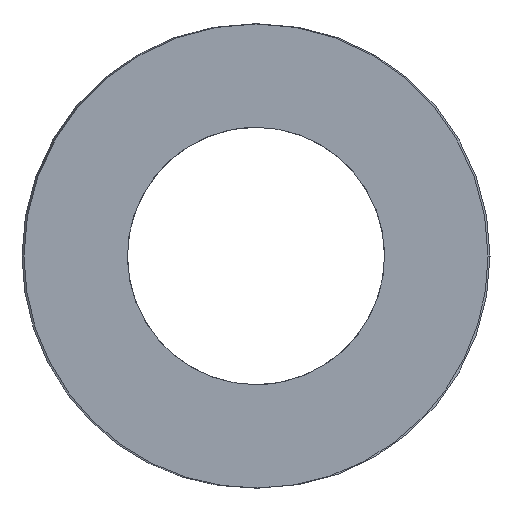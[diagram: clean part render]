
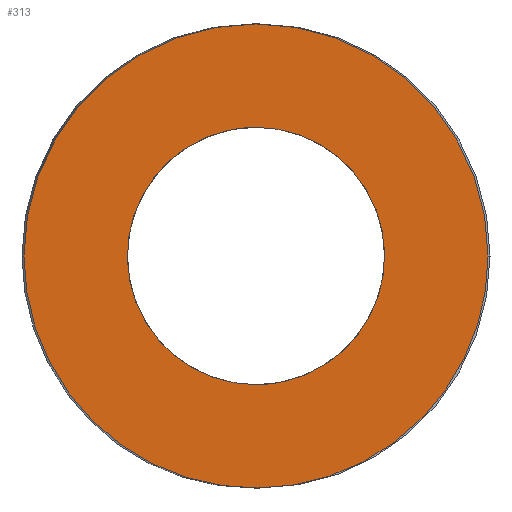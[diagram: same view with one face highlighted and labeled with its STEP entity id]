
A CAD part, left-side view. The second image highlights one B-rep face of the part: STEP entity #313.
In plain terms, the highlighted planar face has unit normal (-1, 0, 0).
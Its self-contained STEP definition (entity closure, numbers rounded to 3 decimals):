
#63=CARTESIAN_POINT('Vertex',(0.,9.2,0.)) ;
#89=CARTESIAN_POINT('Vertex',(0.,-9.2,0.)) ;
#93=CARTESIAN_POINT('Control Point',(0.,9.2,0.)) ;
#94=CARTESIAN_POINT('Control Point',(0.,9.2,-1.445)) ;
#95=CARTESIAN_POINT('Control Point',(0.,8.916,-2.89)) ;
#96=CARTESIAN_POINT('Control Point',(0.,8.348,-4.261)) ;
#97=CARTESIAN_POINT('Control Point',(0.,6.706,-6.706)) ;
#98=CARTESIAN_POINT('Control Point',(0.,4.261,-8.348)) ;
#99=CARTESIAN_POINT('Control Point',(0.,2.89,-8.916)) ;
#100=CARTESIAN_POINT('Control Point',(0.,0.,-9.484)) ;
#101=CARTESIAN_POINT('Control Point',(0.,-2.89,-8.916)) ;
#102=CARTESIAN_POINT('Control Point',(0.,-4.261,-8.348)) ;
#103=CARTESIAN_POINT('Control Point',(0.,-6.706,-6.706)) ;
#104=CARTESIAN_POINT('Control Point',(0.,-8.348,-4.261)) ;
#105=CARTESIAN_POINT('Control Point',(0.,-8.916,-2.89)) ;
#106=CARTESIAN_POINT('Control Point',(0.,-9.2,-1.445)) ;
#107=CARTESIAN_POINT('Control Point',(0.,-9.2,0.)) ;
#121=CARTESIAN_POINT('Axis2P3D Location',(0.,0.,0.)) ;
#250=CARTESIAN_POINT('Axis2P3D Location',(0.,4.6,0.)) ;
#260=CARTESIAN_POINT('Control Point',(0.,0.,-5.1)) ;
#261=CARTESIAN_POINT('Control Point',(0.,0.553,-5.1)) ;
#262=CARTESIAN_POINT('Control Point',(0.,1.106,-5.025)) ;
#263=CARTESIAN_POINT('Control Point',(0.,1.646,-4.875)) ;
#264=CARTESIAN_POINT('Control Point',(0.,2.671,-4.432)) ;
#265=CARTESIAN_POINT('Control Point',(0.,3.541,-3.733)) ;
#266=CARTESIAN_POINT('Control Point',(0.,3.926,-3.326)) ;
#267=CARTESIAN_POINT('Control Point',(0.,4.575,-2.418)) ;
#268=CARTESIAN_POINT('Control Point',(0.,4.96,-1.37)) ;
#269=CARTESIAN_POINT('Control Point',(0.,5.079,-0.822)) ;
#270=CARTESIAN_POINT('Control Point',(0.,5.167,0.291)) ;
#271=CARTESIAN_POINT('Control Point',(0.,4.955,1.387)) ;
#272=CARTESIAN_POINT('Control Point',(0.,4.775,1.917)) ;
#273=CARTESIAN_POINT('Control Point',(0.,4.275,2.916)) ;
#274=CARTESIAN_POINT('Control Point',(0.,3.528,3.745)) ;
#275=CARTESIAN_POINT('Control Point',(0.,3.1,4.106)) ;
#276=CARTESIAN_POINT('Control Point',(0.,2.255,4.642)) ;
#277=CARTESIAN_POINT('Control Point',(0.,1.309,4.959)) ;
#278=CARTESIAN_POINT('Control Point',(0.,0.877,5.053)) ;
#279=CARTESIAN_POINT('Control Point',(0.,0.439,5.1)) ;
#280=CARTESIAN_POINT('Control Point',(0.,0.,5.1)) ;
#281=CARTESIAN_POINT('Vertex',(0.,0.,-5.1)) ;
#283=CARTESIAN_POINT('Vertex',(0.,0.,5.1)) ;
#287=CARTESIAN_POINT('Control Point',(0.,0.,5.1)) ;
#288=CARTESIAN_POINT('Control Point',(0.,-0.553,5.1)) ;
#289=CARTESIAN_POINT('Control Point',(0.,-1.106,5.025)) ;
#290=CARTESIAN_POINT('Control Point',(0.,-1.646,4.875)) ;
#291=CARTESIAN_POINT('Control Point',(0.,-2.671,4.432)) ;
#292=CARTESIAN_POINT('Control Point',(0.,-3.541,3.733)) ;
#293=CARTESIAN_POINT('Control Point',(0.,-3.926,3.326)) ;
#294=CARTESIAN_POINT('Control Point',(0.,-4.575,2.418)) ;
#295=CARTESIAN_POINT('Control Point',(0.,-4.96,1.37)) ;
#296=CARTESIAN_POINT('Control Point',(0.,-5.079,0.822)) ;
#297=CARTESIAN_POINT('Control Point',(0.,-5.167,-0.291)) ;
#298=CARTESIAN_POINT('Control Point',(0.,-4.955,-1.387)) ;
#299=CARTESIAN_POINT('Control Point',(0.,-4.775,-1.917)) ;
#300=CARTESIAN_POINT('Control Point',(0.,-4.275,-2.916)) ;
#301=CARTESIAN_POINT('Control Point',(0.,-3.528,-3.745)) ;
#302=CARTESIAN_POINT('Control Point',(0.,-3.1,-4.106)) ;
#303=CARTESIAN_POINT('Control Point',(0.,-2.255,-4.642)) ;
#304=CARTESIAN_POINT('Control Point',(0.,-1.309,-4.959)) ;
#305=CARTESIAN_POINT('Control Point',(0.,-0.877,-5.053)) ;
#306=CARTESIAN_POINT('Control Point',(0.,-0.439,-5.1)) ;
#307=CARTESIAN_POINT('Control Point',(0.,0.,-5.1)) ;
#122=DIRECTION('Axis2P3D Direction',(1.,-0.,0.)) ;
#251=DIRECTION('Axis2P3D Direction',(-1.,0.,0.)) ;
#252=DIRECTION('Axis2P3D XDirection',(0.,1.,0.)) ;
#123=AXIS2_PLACEMENT_3D('Circle Axis2P3D',#121,#122,$) ;
#253=AXIS2_PLACEMENT_3D('Plane Axis2P3D',#250,#251,#252) ;
#256=ORIENTED_EDGE('',*,*,#108,.T.) ;
#257=ORIENTED_EDGE('',*,*,#125,.T.) ;
#310=ORIENTED_EDGE('',*,*,#285,.T.) ;
#311=ORIENTED_EDGE('',*,*,#308,.T.) ;
#312=FACE_BOUND('',#309,.T.) ;
#313=ADVANCED_FACE('392-B20-051',(#258,#312),#254,.T.) ;
#92=B_SPLINE_CURVE_WITH_KNOTS('',5,(#93,#94,#95,#96,#97,#98,#99,#100,#101,#102,#103,#104,#105,#106,#107),.UNSPECIFIED.,.F.,.U.,(6,3,3,3,6),(-14.451,-7.226,0.,7.226,14.451),.UNSPECIFIED.) ;
#259=B_SPLINE_CURVE_WITH_KNOTS('',5,(#260,#261,#262,#263,#264,#265,#266,#267,#268,#269,#270,#271,#272,#273,#274,#275,#276,#277,#278,#279,#280),.UNSPECIFIED.,.F.,.U.,(6,3,3,3,3,3,6),(0.,3.911,7.823,11.734,15.646,19.557,22.658),.UNSPECIFIED.) ;
#286=B_SPLINE_CURVE_WITH_KNOTS('',5,(#287,#288,#289,#290,#291,#292,#293,#294,#295,#296,#297,#298,#299,#300,#301,#302,#303,#304,#305,#306,#307),.UNSPECIFIED.,.F.,.U.,(6,3,3,3,3,3,6),(0.,3.911,7.823,11.734,15.646,19.557,22.658),.UNSPECIFIED.) ;
#124=CIRCLE('generated circle',#123,9.2) ;
#108=EDGE_CURVE('',#64,#90,#92,.T.) ;
#125=EDGE_CURVE('',#90,#64,#124,.F.) ;
#285=EDGE_CURVE('',#282,#284,#259,.T.) ;
#308=EDGE_CURVE('',#284,#282,#286,.T.) ;
#255=EDGE_LOOP('',(#256,#257)) ;
#309=EDGE_LOOP('',(#310,#311)) ;
#258=FACE_OUTER_BOUND('',#255,.T.) ;
#254=PLANE('Plane',#253) ;
#64=VERTEX_POINT('',#63) ;
#90=VERTEX_POINT('',#89) ;
#282=VERTEX_POINT('',#281) ;
#284=VERTEX_POINT('',#283) ;
